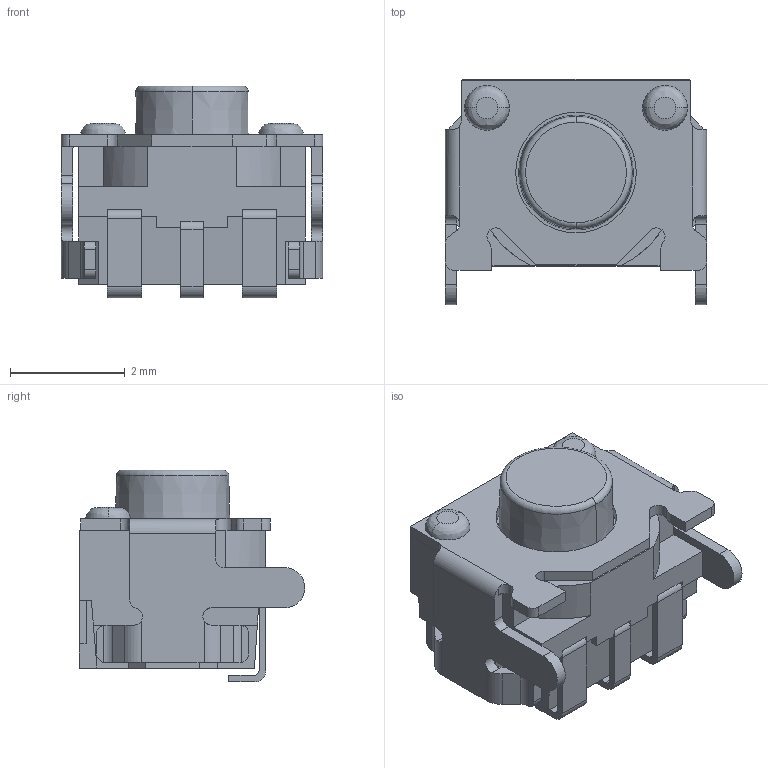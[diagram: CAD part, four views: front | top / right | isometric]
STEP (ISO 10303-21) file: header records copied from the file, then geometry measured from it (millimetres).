
FILE_DESCRIPTION((''),'2;1');
FILE_NAME('JQD3445-B0353-01AG-1-105_ASM','2026-05-21T18:03:07',('Admin'),(''),'CREO PARAMETRIC BY PTC INC, 2019224','CREO PARAMETRIC BY PTC INC, 2019224','');
FILE_SCHEMA(('AUTOMOTIVE_DESIGN { 1 0 10303 214 1 1 1 1 }'));
Length unit declared in the file: millimetre
Products named in the file (2): JQD3445-B0353-01AG-1-105_01; JQD3445-B0353-01AG-1-105_ASM
Assembly tree (1 placements, depth 2):
  JQD3445-B0353-01AG-1-105_ASM
    JQD3445-B0353-01AG-1-105_01
Bounding box: 4.55 x 3.92 x 3.69 mm (x, y, z)
Volume: 26.8 mm3; surface area: 150.8 mm2
Topology: 1 solids, 3 shells, 301 faces, 847 edges, 560 vertices
Faces by surface type: plane 198, cylinder 93, torus 4, bspline 4, cone 2
Entity records: 14334 total; most frequent: CARTESIAN_POINT 1989, ORIENTED_EDGE 1692, DIRECTION 1651, PRESENTATION_STYLE_ASSIGNMENT 998, STYLED_ITEM 850, CURVE_STYLE 849, EDGE_CURVE 846, VECTOR 585
